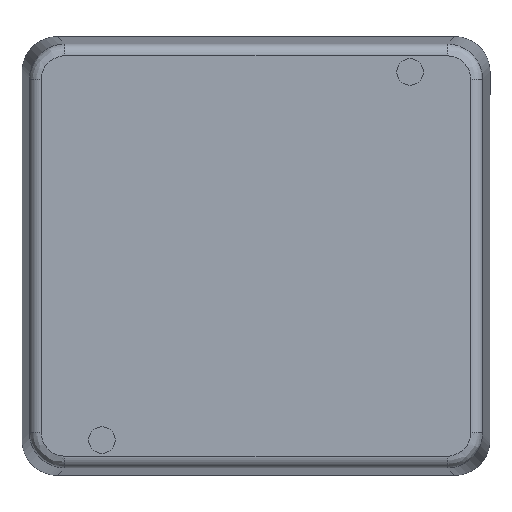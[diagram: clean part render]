
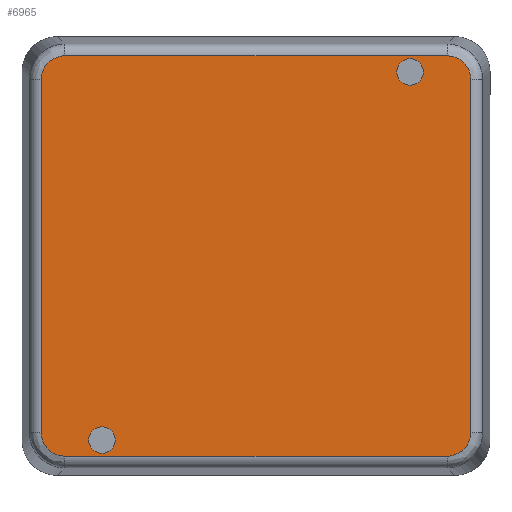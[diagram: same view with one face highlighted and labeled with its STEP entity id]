
A CAD part, front view. The second image highlights one B-rep face of the part: STEP entity #6965.
In plain terms, the highlighted planar face has unit normal (0, -1, 0) as drawn and (0, 0, -1) by its records, which use the part's own axes.
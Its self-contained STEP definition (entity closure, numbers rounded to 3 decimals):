
#295=ELLIPSE('',#7490,4.004,4.);
#297=ELLIPSE('',#7495,4.004,4.);
#299=ELLIPSE('',#7501,4.004,4.);
#301=ELLIPSE('',#7506,4.004,4.);
#364=FACE_BOUND('',#1529,.T.);
#365=FACE_BOUND('',#1530,.T.);
#426=CIRCLE('',#7297,2.25);
#428=CIRCLE('',#7300,2.25);
#1046=FACE_OUTER_BOUND('',#1528,.T.);
#1528=EDGE_LOOP('',(#5317,#5318,#5319,#5320,#5321,#5322,#5323,#5324));
#1529=EDGE_LOOP('',(#5325));
#1530=EDGE_LOOP('',(#5326));
#2060=LINE('',#11308,#2598);
#2066=LINE('',#11393,#2604);
#2068=LINE('',#11396,#2606);
#2070=LINE('',#11399,#2608);
#2598=VECTOR('',#8825,65.081);
#2604=VECTOR('',#8853,60.081);
#2606=VECTOR('',#8857,65.081);
#2608=VECTOR('',#8861,60.081);
#3003=VERTEX_POINT('',#10556);
#3005=VERTEX_POINT('',#10561);
#3158=VERTEX_POINT('',#11255);
#3160=VERTEX_POINT('',#11259);
#3162=VERTEX_POINT('',#11296);
#3164=VERTEX_POINT('',#11300);
#3166=VERTEX_POINT('',#11340);
#3168=VERTEX_POINT('',#11344);
#3170=VERTEX_POINT('',#11381);
#3172=VERTEX_POINT('',#11385);
#3708=EDGE_CURVE('',#3003,#3003,#426,.T.);
#3710=EDGE_CURVE('',#3005,#3005,#428,.T.);
#3931=EDGE_CURVE('',#3160,#3158,#295,.T.);
#3937=EDGE_CURVE('',#3164,#3162,#297,.T.);
#3941=EDGE_CURVE('',#3158,#3164,#2060,.T.);
#3945=EDGE_CURVE('',#3168,#3166,#299,.T.);
#3951=EDGE_CURVE('',#3172,#3170,#301,.T.);
#3955=EDGE_CURVE('',#3162,#3172,#2066,.T.);
#3957=EDGE_CURVE('',#3170,#3168,#2068,.T.);
#3959=EDGE_CURVE('',#3166,#3160,#2070,.T.);
#5317=ORIENTED_EDGE('',*,*,#3951,.F.);
#5318=ORIENTED_EDGE('',*,*,#3955,.F.);
#5319=ORIENTED_EDGE('',*,*,#3937,.F.);
#5320=ORIENTED_EDGE('',*,*,#3941,.F.);
#5321=ORIENTED_EDGE('',*,*,#3931,.F.);
#5322=ORIENTED_EDGE('',*,*,#3959,.F.);
#5323=ORIENTED_EDGE('',*,*,#3945,.F.);
#5324=ORIENTED_EDGE('',*,*,#3957,.F.);
#5325=ORIENTED_EDGE('',*,*,#3708,.T.);
#5326=ORIENTED_EDGE('',*,*,#3710,.T.);
#6696=PLANE('',#7513);
#6965=ADVANCED_FACE('',(#1046,#364,#365),#6696,.F.);
#7297=AXIS2_PLACEMENT_3D('',#10557,#8308,#8309);
#7300=AXIS2_PLACEMENT_3D('',#10562,#8314,#8315);
#7490=AXIS2_PLACEMENT_3D('',#11261,#8804,#8805);
#7495=AXIS2_PLACEMENT_3D('',#11302,#8816,#8817);
#7501=AXIS2_PLACEMENT_3D('',#11346,#8832,#8833);
#7506=AXIS2_PLACEMENT_3D('',#11387,#8844,#8845);
#7513=AXIS2_PLACEMENT_3D('',#11402,#8866,#8867);
#8308=DIRECTION('center_axis',(0.,0.,1.));
#8309=DIRECTION('ref_axis',(1.,0.,0.));
#8314=DIRECTION('center_axis',(0.,0.,1.));
#8315=DIRECTION('ref_axis',(1.,0.,0.));
#8804=DIRECTION('center_axis',(0.,0.,1.));
#8805=DIRECTION('ref_axis',(0.707,0.707,0.));
#8816=DIRECTION('center_axis',(0.,0.,1.));
#8817=DIRECTION('ref_axis',(-0.707,0.707,0.));
#8825=DIRECTION('',(-1.,0.,0.));
#8832=DIRECTION('center_axis',(0.,0.,1.));
#8833=DIRECTION('ref_axis',(0.707,-0.707,0.));
#8844=DIRECTION('center_axis',(0.,0.,1.));
#8845=DIRECTION('ref_axis',(-0.707,-0.707,0.));
#8853=DIRECTION('',(0.,-1.,0.));
#8857=DIRECTION('',(1.,0.,0.));
#8861=DIRECTION('',(0.,1.,0.));
#8866=DIRECTION('center_axis',(0.,0.,1.));
#8867=DIRECTION('ref_axis',(1.,0.,0.));
#10556=CARTESIAN_POINT('',(-28.451,31.301,-40.));
#10557=CARTESIAN_POINT('Origin',(-26.201,31.301,-40.));
#10561=CARTESIAN_POINT('',(23.951,-31.301,-40.));
#10562=CARTESIAN_POINT('Origin',(26.201,-31.301,-40.));
#11255=CARTESIAN_POINT('',(32.541,34.038,-40.));
#11259=CARTESIAN_POINT('',(36.538,30.041,-40.));
#11261=CARTESIAN_POINT('Origin',(32.536,30.036,-40.));
#11296=CARTESIAN_POINT('',(-36.538,30.041,-40.));
#11300=CARTESIAN_POINT('',(-32.541,34.038,-40.));
#11302=CARTESIAN_POINT('Origin',(-32.536,30.036,-40.));
#11308=CARTESIAN_POINT('',(19.9,34.038,-40.));
#11340=CARTESIAN_POINT('',(36.538,-30.041,-40.));
#11344=CARTESIAN_POINT('',(32.541,-34.038,-40.));
#11346=CARTESIAN_POINT('Origin',(32.536,-30.036,-40.));
#11381=CARTESIAN_POINT('',(-32.541,-34.038,-40.));
#11385=CARTESIAN_POINT('',(-36.538,-30.041,-40.));
#11387=CARTESIAN_POINT('Origin',(-32.536,-30.036,-40.));
#11393=CARTESIAN_POINT('',(-36.538,0.,-40.));
#11396=CARTESIAN_POINT('',(0.,-34.038,-40.));
#11399=CARTESIAN_POINT('',(36.538,-18.65,-40.));
#11402=CARTESIAN_POINT('Origin',(0.,0.,-40.));
